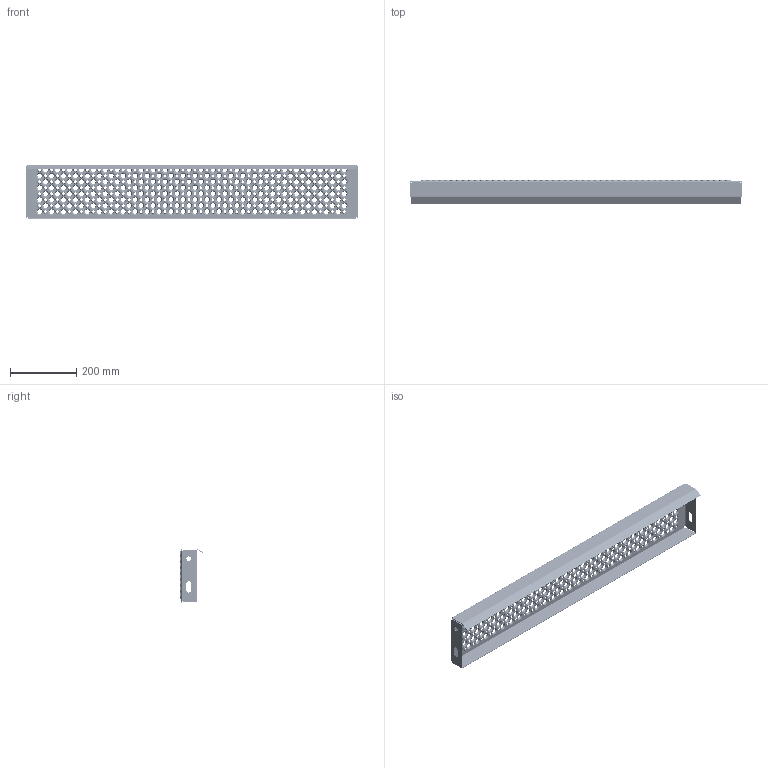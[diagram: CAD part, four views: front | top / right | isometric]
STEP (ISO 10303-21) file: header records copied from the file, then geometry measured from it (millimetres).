
FILE_DESCRIPTION (( 'STEP AP203' ), '1' );
FILE_NAME ('80241610G_Lejdertrin_165x1000x45_mm_.STEP', '2015-01-08T09:41:30', ( '' ), ( '' ), 'SwSTEP 2.0', 'SolidWorks 2013', '' );
FILE_SCHEMA (( 'CONFIG_CONTROL_DESIGN' ));
Products named in the file (1): 80241610G_Lejdertrin_165x1000x45_mm_
Bounding box: 1000 x 71.67 x 165 mm (x, y, z)
Volume: 545331.3 mm3; surface area: 581525.7 mm2
Topology: 1 solids, 1 shells, 2156 faces, 6006 edges, 3852 vertices
Faces by surface type: cone 1248, torus 832, cylinder 36, plane 32, bspline 8
Full cylindrical faces by diameter (mm): 14 x2
Entity records: 50081 total; most frequent: DIRECTION 9494, CARTESIAN_POINT 7937, ORIENTED_EDGE 5352, EDGE_LOOP 5078, AXIS2_PLACEMENT_3D 4701, FACE_OUTER_BOUND 2990, EDGE_CURVE 2676, VERTEX_POINT 2604
